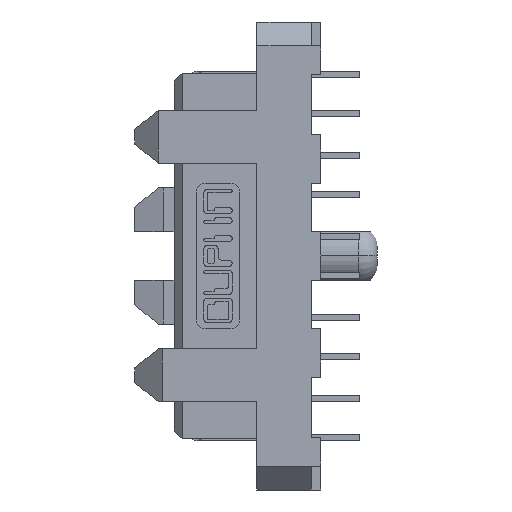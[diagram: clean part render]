
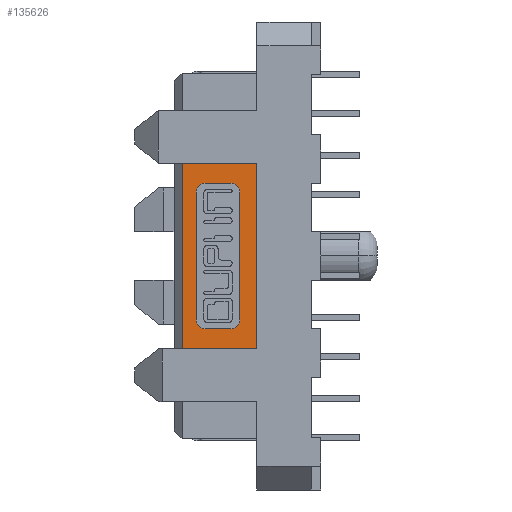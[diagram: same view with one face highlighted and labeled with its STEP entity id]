
A CAD part, left-side view. The second image highlights one B-rep face of the part: STEP entity #135626.
In plain terms, the highlighted planar face has unit normal (-1, 0, 0).
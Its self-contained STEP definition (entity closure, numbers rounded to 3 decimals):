
#26215 = CIRCLE ( 'NONE', #26222, 0.28 ) ;
#26222 = AXIS2_PLACEMENT_3D ( 'NONE', #39115, #39117, #39120 ) ;
#26234 = CIRCLE ( 'NONE', #26243, 0.28 ) ;
#26243 = AXIS2_PLACEMENT_3D ( 'NONE', #39179, #39182, #39185 ) ;
#26261 = CIRCLE ( 'NONE', #26265, 0.28 ) ;
#26265 = AXIS2_PLACEMENT_3D ( 'NONE', #39246, #39248, #39250 ) ;
#26278 = VECTOR ( 'NONE', #39313, 1000. ) ;
#26402 = VECTOR ( 'NONE', #39848, 1000. ) ;
#26500 = CIRCLE ( 'NONE', #26505, 0.28 ) ;
#26505 = AXIS2_PLACEMENT_3D ( 'NONE', #40228, #40233, #40237 ) ;
#26508 = VECTOR ( 'NONE', #40365, 1000. ) ;
#26520 = VECTOR ( 'NONE', #40313, 1000. ) ;
#34416 = VERTEX_POINT ( 'NONE', #66724 ) ;
#34480 = VERTEX_POINT ( 'NONE', #66820 ) ;
#35148 = VERTEX_POINT ( 'NONE', #67850 ) ;
#35332 = VERTEX_POINT ( 'NONE', #68055 ) ;
#35874 = VERTEX_POINT ( 'NONE', #244450 ) ;
#35978 = VERTEX_POINT ( 'NONE', #244614 ) ;
#39115 = CARTESIAN_POINT ( 'NONE',  ( -79.493, 3.626, -5.34 ) ) ;
#39117 = DIRECTION ( 'NONE',  ( -1., 0., 0. ) ) ;
#39120 = DIRECTION ( 'NONE',  ( 0., 0., 1. ) ) ;
#39179 = CARTESIAN_POINT ( 'NONE',  ( -79.493, 2.819, -9.34 ) ) ;
#39182 = DIRECTION ( 'NONE',  ( -1., 0., 0. ) ) ;
#39185 = DIRECTION ( 'NONE',  ( 0., 0., 1. ) ) ;
#39246 = CARTESIAN_POINT ( 'NONE',  ( -79.493, 3.626, -9.34 ) ) ;
#39248 = DIRECTION ( 'NONE',  ( -1., 0., 0. ) ) ;
#39250 = DIRECTION ( 'NONE',  ( 0., 0., 1. ) ) ;
#39291 = LINE ( 'NONE', #39300, #26278 ) ;
#39300 = CARTESIAN_POINT ( 'NONE',  ( -79.493, 2.539, -2.074 ) ) ;
#39313 = DIRECTION ( 'NONE',  ( 0., 0., 1. ) ) ;
#39824 = CARTESIAN_POINT ( 'NONE',  ( -79.493, 3.105, -5.06 ) ) ;
#39830 = LINE ( 'NONE', #39824, #26402 ) ;
#39848 = DIRECTION ( 'NONE',  ( 0., 1., 0. ) ) ;
#40228 = CARTESIAN_POINT ( 'NONE',  ( -79.493, 2.819, -5.34 ) ) ;
#40233 = DIRECTION ( 'NONE',  ( -1., 0., 0. ) ) ;
#40237 = DIRECTION ( 'NONE',  ( 0., 0., 1. ) ) ;
#40292 = LINE ( 'NONE', #40297, #26520 ) ;
#40297 = CARTESIAN_POINT ( 'NONE',  ( -79.493, 3.105, -9.62 ) ) ;
#40313 = DIRECTION ( 'NONE',  ( 0., 1., 0. ) ) ;
#40333 = LINE ( 'NONE', #40340, #26508 ) ;
#40340 = CARTESIAN_POINT ( 'NONE',  ( -79.493, 3.906, -2.074 ) ) ;
#40365 = DIRECTION ( 'NONE',  ( 0., 0., 1. ) ) ;
#46906 = VERTEX_POINT ( 'NONE', #245629 ) ;
#46934 = VERTEX_POINT ( 'NONE', #245659 ) ;
#47353 = VERTEX_POINT ( 'NONE', #246134 ) ;
#47512 = VERTEX_POINT ( 'NONE', #246377 ) ;
#47622 = VERTEX_POINT ( 'NONE', #246550 ) ;
#47737 = VERTEX_POINT ( 'NONE', #246731 ) ;
#66724 = CARTESIAN_POINT ( 'NONE',  ( -79.493, 2.819, -9.62 ) ) ;
#66820 = CARTESIAN_POINT ( 'NONE',  ( -79.493, 2., -10.25 ) ) ;
#67850 = CARTESIAN_POINT ( 'NONE',  ( -79.493, 2.539, -9.34 ) ) ;
#68055 = CARTESIAN_POINT ( 'NONE',  ( -79.493, 4.35, -10.25 ) ) ;
#90935 = EDGE_CURVE ( 'NONE', #35874, #35332, #136777, .T. ) ;
#90960 = EDGE_CURVE ( 'NONE', #35874, #35978, #136866, .T. ) ;
#90970 = EDGE_CURVE ( 'NONE', #34480, #35332, #136845, .T. ) ;
#90980 = EDGE_CURVE ( 'NONE', #35978, #34480, #136855, .T. ) ;
#104750 = FACE_OUTER_BOUND ( 'NONE', #173444, .T. ) ;
#104765 = FACE_BOUND ( 'NONE', #172778, .T. ) ;
#104767 = PLANE ( 'NONE',  #105196 ) ;
#104776 = CARTESIAN_POINT ( 'NONE',  ( -79.493, 1.86, -13.08 ) ) ;
#104777 = DIRECTION ( 'NONE',  ( 1., 0., 0. ) ) ;
#104778 = DIRECTION ( 'NONE',  ( 0., 0., -1. ) ) ;
#105196 = AXIS2_PLACEMENT_3D ( 'NONE', #104776, #104777, #104778 ) ;
#121144 = ORIENTED_EDGE ( 'NONE', *, *, #168142, .T. ) ;
#133217 = VECTOR ( 'NONE', #136839, 1000. ) ;
#133225 = VECTOR ( 'NONE', #136886, 1000. ) ;
#133227 = VECTOR ( 'NONE', #136871, 1000. ) ;
#133230 = VECTOR ( 'NONE', #136905, 1000. ) ;
#135626 = ADVANCED_FACE ( 'NONE', ( #104765, #104750 ), #104767, .F. ) ;
#136777 = LINE ( 'NONE', #136832, #133217 ) ;
#136832 = CARTESIAN_POINT ( 'NONE',  ( -79.493, 4.35, -13.08 ) ) ;
#136839 = DIRECTION ( 'NONE',  ( 0., 0., -1. ) ) ;
#136845 = LINE ( 'NONE', #136882, #133225 ) ;
#136855 = LINE ( 'NONE', #136900, #133230 ) ;
#136866 = LINE ( 'NONE', #136868, #133227 ) ;
#136868 = CARTESIAN_POINT ( 'NONE',  ( -79.493, 1.86, -4.43 ) ) ;
#136871 = DIRECTION ( 'NONE',  ( 0., -1., 0. ) ) ;
#136882 = CARTESIAN_POINT ( 'NONE',  ( -79.493, 1.86, -10.25 ) ) ;
#136886 = DIRECTION ( 'NONE',  ( 0., 1., 0. ) ) ;
#136900 = CARTESIAN_POINT ( 'NONE',  ( -79.493, 2., -1.6 ) ) ;
#136905 = DIRECTION ( 'NONE',  ( 0., 0., -1. ) ) ;
#137997 = ORIENTED_EDGE ( 'NONE', *, *, #90980, .F. ) ;
#138079 = ORIENTED_EDGE ( 'NONE', *, *, #90935, .T. ) ;
#138215 = ORIENTED_EDGE ( 'NONE', *, *, #167724, .F. ) ;
#138283 = ORIENTED_EDGE ( 'NONE', *, *, #168099, .F. ) ;
#138355 = ORIENTED_EDGE ( 'NONE', *, *, #167782, .F. ) ;
#138357 = ORIENTED_EDGE ( 'NONE', *, *, #168128, .T. ) ;
#138363 = ORIENTED_EDGE ( 'NONE', *, *, #167753, .F. ) ;
#167695 = EDGE_CURVE ( 'NONE', #47353, #46934, #26215, .T. ) ;
#167724 = EDGE_CURVE ( 'NONE', #34416, #35148, #26234, .T. ) ;
#167753 = EDGE_CURVE ( 'NONE', #47737, #46906, #26261, .T. ) ;
#167782 = EDGE_CURVE ( 'NONE', #35148, #47622, #39291, .T. ) ;
#167955 = EDGE_CURVE ( 'NONE', #47512, #47353, #39830, .T. ) ;
#168099 = EDGE_CURVE ( 'NONE', #47622, #47512, #26500, .T. ) ;
#168128 = EDGE_CURVE ( 'NONE', #34416, #46906, #40292, .T. ) ;
#168142 = EDGE_CURVE ( 'NONE', #47737, #46934, #40333, .T. ) ;
#172778 = EDGE_LOOP ( 'NONE', ( #212789, #212795, #138283, #138355, #138215, #138357, #138363, #121144 ) ) ;
#173444 = EDGE_LOOP ( 'NONE', ( #211566, #138079, #211692, #137997 ) ) ;
#211566 = ORIENTED_EDGE ( 'NONE', *, *, #90960, .F. ) ;
#211692 = ORIENTED_EDGE ( 'NONE', *, *, #90970, .F. ) ;
#212789 = ORIENTED_EDGE ( 'NONE', *, *, #167695, .F. ) ;
#212795 = ORIENTED_EDGE ( 'NONE', *, *, #167955, .F. ) ;
#244450 = CARTESIAN_POINT ( 'NONE',  ( -79.493, 4.35, -4.43 ) ) ;
#244614 = CARTESIAN_POINT ( 'NONE',  ( -79.493, 2., -4.43 ) ) ;
#245629 = CARTESIAN_POINT ( 'NONE',  ( -79.493, 3.626, -9.62 ) ) ;
#245659 = CARTESIAN_POINT ( 'NONE',  ( -79.493, 3.906, -5.34 ) ) ;
#246134 = CARTESIAN_POINT ( 'NONE',  ( -79.493, 3.626, -5.06 ) ) ;
#246377 = CARTESIAN_POINT ( 'NONE',  ( -79.493, 2.819, -5.06 ) ) ;
#246550 = CARTESIAN_POINT ( 'NONE',  ( -79.493, 2.539, -5.34 ) ) ;
#246731 = CARTESIAN_POINT ( 'NONE',  ( -79.493, 3.906, -9.34 ) ) ;
